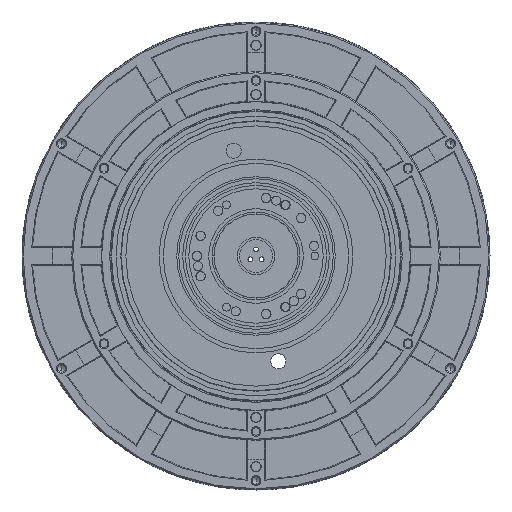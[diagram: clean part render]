
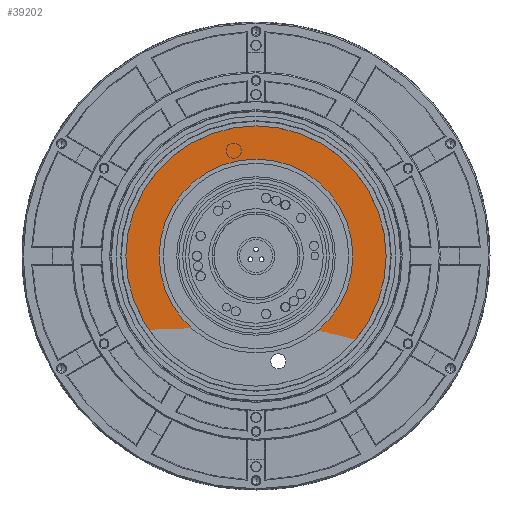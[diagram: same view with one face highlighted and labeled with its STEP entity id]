
A CAD part, front view. The second image highlights one B-rep face of the part: STEP entity #39202.
In plain terms, the highlighted planar face has unit normal (0, -1, 0).
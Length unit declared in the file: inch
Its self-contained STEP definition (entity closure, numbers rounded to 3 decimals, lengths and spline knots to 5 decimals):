
#677 = ORIENTED_EDGE ( 'NONE', *, *, #4268, .F. ) ;
#2018 = VERTEX_POINT ( 'NONE', #29092 ) ;
#2283 = CIRCLE ( 'NONE', #55060, 0.40625 ) ;
#2603 = DIRECTION ( 'NONE',  ( 0., 0., -1. ) ) ;
#2686 = EDGE_LOOP ( 'NONE', ( #3768, #35799 ) ) ;
#3768 = ORIENTED_EDGE ( 'NONE', *, *, #21152, .T. ) ;
#4268 = EDGE_CURVE ( 'NONE', #2018, #34086, #48387, .T. ) ;
#4631 = CIRCLE ( 'NONE', #6554, 6.94936 ) ;
#4756 = CARTESIAN_POINT ( 'NONE',  ( 0., 0., -6.94936 ) ) ;
#5331 = VERTEX_POINT ( 'NONE', #4756 ) ;
#6448 = PLANE ( 'NONE',  #43009 ) ;
#6525 = CARTESIAN_POINT ( 'NONE',  ( 0., 0., 6.94936 ) ) ;
#6554 = AXIS2_PLACEMENT_3D ( 'NONE', #15626, #30396, #2603 ) ;
#7395 = CARTESIAN_POINT ( 'NONE',  ( 0., 0., 0. ) ) ;
#8096 = EDGE_CURVE ( 'NONE', #40567, #38292, #2283, .T. ) ;
#9553 = CARTESIAN_POINT ( 'NONE',  ( 0., 0., 0. ) ) ;
#10854 = EDGE_CURVE ( 'NONE', #39833, #5331, #28945, .T. ) ;
#11459 = FACE_OUTER_BOUND ( 'NONE', #2686, .T. ) ;
#11748 = DIRECTION ( 'NONE',  ( 0., 0., -1. ) ) ;
#13430 = CARTESIAN_POINT ( 'NONE',  ( 0., 0., -4.30064 ) ) ;
#13996 = DIRECTION ( 'NONE',  ( 0., -1., 0. ) ) ;
#15626 = CARTESIAN_POINT ( 'NONE',  ( 0., 0., 0. ) ) ;
#16132 = FACE_BOUND ( 'NONE', #25141, .T. ) ;
#18472 = AXIS2_PLACEMENT_3D ( 'NONE', #7395, #48130, #47539 ) ;
#18656 = CARTESIAN_POINT ( 'NONE',  ( 1.19549, 0., -6.0306 ) ) ;
#19231 = DIRECTION ( 'NONE',  ( 0., -1., 0. ) ) ;
#21152 = EDGE_CURVE ( 'NONE', #5331, #39833, #4631, .T. ) ;
#22799 = CARTESIAN_POINT ( 'NONE',  ( 1.19549, 0., -5.62435 ) ) ;
#23603 = DIRECTION ( 'NONE',  ( 0., -1., 0. ) ) ;
#23626 = DIRECTION ( 'NONE',  ( 0., 0., -1. ) ) ;
#23931 = DIRECTION ( 'NONE',  ( 0., -1., 0. ) ) ;
#24429 = FACE_BOUND ( 'NONE', #50213, .T. ) ;
#24469 = CIRCLE ( 'NONE', #56477, 4.30064 ) ;
#25141 = EDGE_LOOP ( 'NONE', ( #45594, #31694 ) ) ;
#27593 = DIRECTION ( 'NONE',  ( 0., 0., -1. ) ) ;
#28104 = DIRECTION ( 'NONE',  ( 0., 0., -1. ) ) ;
#28396 = CIRCLE ( 'NONE', #50060, 0.40625 ) ;
#28945 = CIRCLE ( 'NONE', #18472, 6.94936 ) ;
#29092 = CARTESIAN_POINT ( 'NONE',  ( 0., 0., 4.30064 ) ) ;
#30396 = DIRECTION ( 'NONE',  ( 0., -1., 0. ) ) ;
#31694 = ORIENTED_EDGE ( 'NONE', *, *, #8096, .F. ) ;
#32511 = CARTESIAN_POINT ( 'NONE',  ( 1.19549, 0., -5.62435 ) ) ;
#34086 = VERTEX_POINT ( 'NONE', #13430 ) ;
#35799 = ORIENTED_EDGE ( 'NONE', *, *, #10854, .T. ) ;
#37438 = CARTESIAN_POINT ( 'NONE',  ( 0., 0., -7. ) ) ;
#38292 = VERTEX_POINT ( 'NONE', #51575 ) ;
#39202 = ADVANCED_FACE ( 'NONE', ( #16132, #11459, #24429 ), #6448, .T. ) ;
#39833 = VERTEX_POINT ( 'NONE', #6525 ) ;
#40567 = VERTEX_POINT ( 'NONE', #18656 ) ;
#41417 = DIRECTION ( 'NONE',  ( 0., 0., -1. ) ) ;
#41798 = AXIS2_PLACEMENT_3D ( 'NONE', #55490, #23931, #23626 ) ;
#42506 = EDGE_CURVE ( 'NONE', #34086, #2018, #24469, .T. ) ;
#43009 = AXIS2_PLACEMENT_3D ( 'NONE', #37438, #55387, #11748 ) ;
#45594 = ORIENTED_EDGE ( 'NONE', *, *, #47591, .F. ) ;
#47539 = DIRECTION ( 'NONE',  ( 0., 0., -1. ) ) ;
#47591 = EDGE_CURVE ( 'NONE', #38292, #40567, #28396, .T. ) ;
#48130 = DIRECTION ( 'NONE',  ( 0., -1., 0. ) ) ;
#48387 = CIRCLE ( 'NONE', #41798, 4.30064 ) ;
#49637 = ORIENTED_EDGE ( 'NONE', *, *, #42506, .F. ) ;
#50060 = AXIS2_PLACEMENT_3D ( 'NONE', #32511, #23603, #28104 ) ;
#50213 = EDGE_LOOP ( 'NONE', ( #49637, #677 ) ) ;
#51575 = CARTESIAN_POINT ( 'NONE',  ( 1.19549, 0., -5.2181 ) ) ;
#55060 = AXIS2_PLACEMENT_3D ( 'NONE', #22799, #13996, #27593 ) ;
#55387 = DIRECTION ( 'NONE',  ( 0., -1., 0. ) ) ;
#55490 = CARTESIAN_POINT ( 'NONE',  ( 0., 0., 0. ) ) ;
#56477 = AXIS2_PLACEMENT_3D ( 'NONE', #9553, #19231, #41417 ) ;
